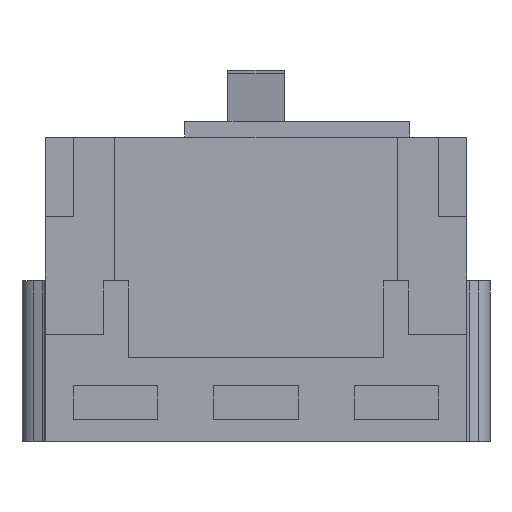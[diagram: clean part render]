
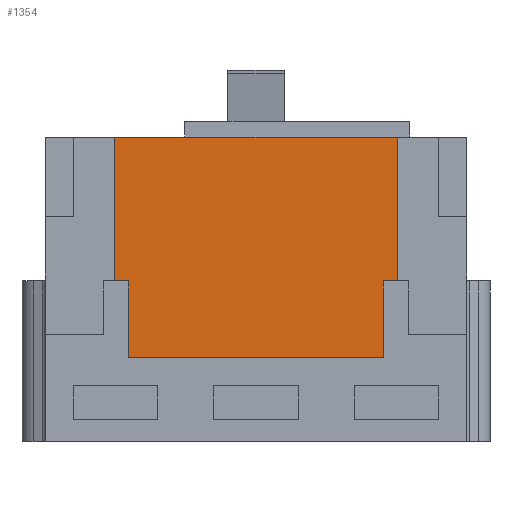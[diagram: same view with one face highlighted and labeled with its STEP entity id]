
A CAD part, front view. The second image highlights one B-rep face of the part: STEP entity #1354.
In plain terms, the highlighted planar face has unit normal (0, -1, 0).
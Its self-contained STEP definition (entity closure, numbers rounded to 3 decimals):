
#35 = ORIENTED_EDGE ( 'NONE', *, *, #4436, .T. ) ;
#98 = DIRECTION ( 'NONE',  ( 0., -1., 0. ) ) ;
#183 = DIRECTION ( 'NONE',  ( 1., 0., 0. ) ) ;
#184 = DIRECTION ( 'NONE',  ( 0., 0., -1. ) ) ;
#287 = VERTEX_POINT ( 'NONE', #2036 ) ;
#403 = VERTEX_POINT ( 'NONE', #2961 ) ;
#637 = CARTESIAN_POINT ( 'NONE',  ( -44.2, 48.3, 86. ) ) ;
#676 = DIRECTION ( 'NONE',  ( 1., 0., 0. ) ) ;
#688 = ORIENTED_EDGE ( 'NONE', *, *, #2650, .T. ) ;
#717 = VERTEX_POINT ( 'NONE', #4570 ) ;
#760 = DIRECTION ( 'NONE',  ( 0., 0., 1. ) ) ;
#775 = CARTESIAN_POINT ( 'NONE',  ( -37., 48.3, 86. ) ) ;
#799 = ORIENTED_EDGE ( 'NONE', *, *, #1467, .F. ) ;
#989 = ORIENTED_EDGE ( 'NONE', *, *, #2548, .F. ) ;
#1042 = VERTEX_POINT ( 'NONE', #5503 ) ;
#1135 = LINE ( 'NONE', #4703, #3576 ) ;
#1204 = CARTESIAN_POINT ( 'NONE',  ( -37., 48.3, 171.375 ) ) ;
#1225 = FACE_OUTER_BOUND ( 'NONE', #3796, .T. ) ;
#1354 = ADVANCED_FACE ( 'NONE', ( #1225 ), #5279, .T. ) ;
#1415 = VECTOR ( 'NONE', #2086, 1000. ) ;
#1467 = EDGE_CURVE ( 'NONE', #3611, #1869, #2975, .T. ) ;
#1485 = VECTOR ( 'NONE', #676, 1000. ) ;
#1490 = VECTOR ( 'NONE', #760, 1000. ) ;
#1497 = VERTEX_POINT ( 'NONE', #2378 ) ;
#1581 = VECTOR ( 'NONE', #183, 1000. ) ;
#1620 = ORIENTED_EDGE ( 'NONE', *, *, #2236, .T. ) ;
#1823 = VECTOR ( 'NONE', #184, 1000. ) ;
#1869 = VERTEX_POINT ( 'NONE', #1895 ) ;
#1895 = CARTESIAN_POINT ( 'NONE',  ( -44.2, 48.3, 45. ) ) ;
#1916 = ORIENTED_EDGE ( 'NONE', *, *, #3700, .T. ) ;
#2036 = CARTESIAN_POINT ( 'NONE',  ( -180.8, 48.3, 45. ) ) ;
#2086 = DIRECTION ( 'NONE',  ( 1., 0., 0. ) ) ;
#2125 = DIRECTION ( 'NONE',  ( 1., 0., 0. ) ) ;
#2236 = EDGE_CURVE ( 'NONE', #4855, #1497, #3784, .T. ) ;
#2378 = CARTESIAN_POINT ( 'NONE',  ( -37., 48.3, 162.85 ) ) ;
#2387 = CARTESIAN_POINT ( 'NONE',  ( -188., 48.3, 171.375 ) ) ;
#2523 = EDGE_CURVE ( 'NONE', #3611, #4855, #4707, .T. ) ;
#2548 = EDGE_CURVE ( 'NONE', #403, #1497, #1135, .T. ) ;
#2650 = EDGE_CURVE ( 'NONE', #1042, #717, #2758, .T. ) ;
#2711 = CARTESIAN_POINT ( 'NONE',  ( 0., 48.3, 0. ) ) ;
#2758 = LINE ( 'NONE', #4557, #1485 ) ;
#2783 = CARTESIAN_POINT ( 'NONE',  ( -188., 48.3, 45. ) ) ;
#2838 = DIRECTION ( 'NONE',  ( 0., 0., -1. ) ) ;
#2961 = CARTESIAN_POINT ( 'NONE',  ( -188., 48.3, 162.85 ) ) ;
#2975 = LINE ( 'NONE', #3647, #1823 ) ;
#3055 = AXIS2_PLACEMENT_3D ( 'NONE', #2711, #98, #3138 ) ;
#3138 = DIRECTION ( 'NONE',  ( 0., 0., -1. ) ) ;
#3576 = VECTOR ( 'NONE', #2125, 1000. ) ;
#3611 = VERTEX_POINT ( 'NONE', #637 ) ;
#3647 = CARTESIAN_POINT ( 'NONE',  ( -44.2, 48.3, 136.071 ) ) ;
#3700 = EDGE_CURVE ( 'NONE', #717, #287, #3894, .T. ) ;
#3754 = VECTOR ( 'NONE', #4511, 1000. ) ;
#3784 = LINE ( 'NONE', #1204, #1490 ) ;
#3796 = EDGE_LOOP ( 'NONE', ( #35, #799, #4348, #1620, #989, #4410, #688, #1916 ) ) ;
#3894 = LINE ( 'NONE', #4535, #4882 ) ;
#3998 = LINE ( 'NONE', #2783, #1581 ) ;
#4150 = EDGE_CURVE ( 'NONE', #403, #1042, #5021, .T. ) ;
#4348 = ORIENTED_EDGE ( 'NONE', *, *, #2523, .T. ) ;
#4410 = ORIENTED_EDGE ( 'NONE', *, *, #4150, .T. ) ;
#4436 = EDGE_CURVE ( 'NONE', #287, #1869, #3998, .T. ) ;
#4511 = DIRECTION ( 'NONE',  ( 0., 0., -1. ) ) ;
#4535 = CARTESIAN_POINT ( 'NONE',  ( -180.8, 48.3, 136.071 ) ) ;
#4557 = CARTESIAN_POINT ( 'NONE',  ( 0., 48.3, 86. ) ) ;
#4570 = CARTESIAN_POINT ( 'NONE',  ( -180.8, 48.3, 86. ) ) ;
#4670 = CARTESIAN_POINT ( 'NONE',  ( -44.2, 48.3, 86. ) ) ;
#4703 = CARTESIAN_POINT ( 'NONE',  ( -225., 48.3, 162.85 ) ) ;
#4707 = LINE ( 'NONE', #4670, #1415 ) ;
#4855 = VERTEX_POINT ( 'NONE', #775 ) ;
#4882 = VECTOR ( 'NONE', #2838, 1000. ) ;
#5021 = LINE ( 'NONE', #2387, #3754 ) ;
#5279 = PLANE ( 'NONE',  #3055 ) ;
#5503 = CARTESIAN_POINT ( 'NONE',  ( -188., 48.3, 86. ) ) ;
